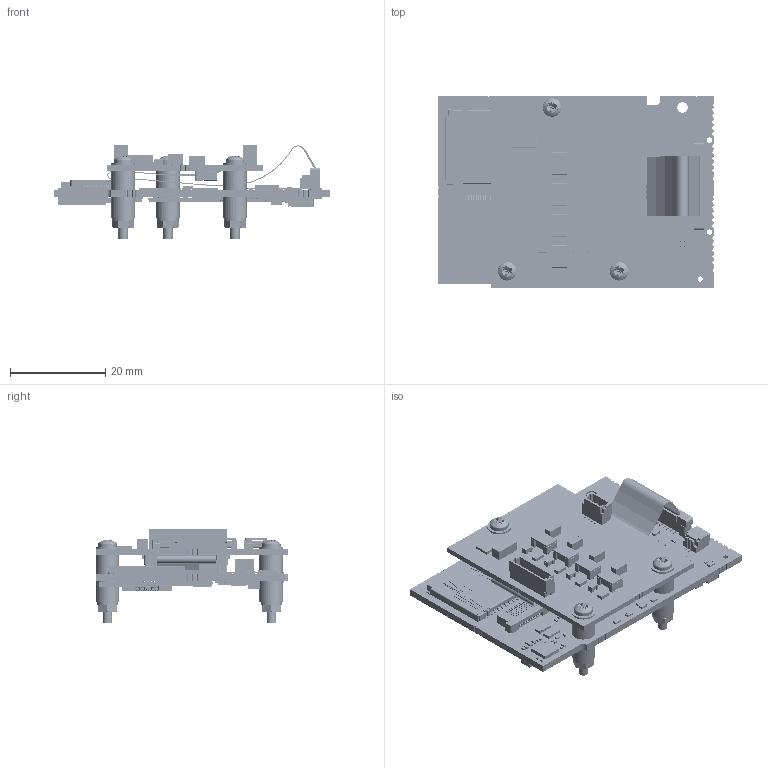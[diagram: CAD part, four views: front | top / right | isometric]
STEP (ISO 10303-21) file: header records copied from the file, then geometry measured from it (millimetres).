
FILE_DESCRIPTION( ( 'Unknown' ), '1' );
FILE_NAME( 'Q:/2003/Product3DCADModels/STEP-test/mm-ap29c01-0172-0101.stp', 'Unknown', ( 'Unknown' ), ( 'Unknown' ), 'PSStep 17.0.49', 'Unknown', ' ' );
FILE_SCHEMA( ( 'AUTOMOTIVE_DESIGN { 1 0 10303 214 1 1 1 1 }' ) );
Length unit declared in the file: millimetre
Products named in the file (556): Lead-3; Open_CASCADE_STEP_translator_6.8_1.2.1; Lead-1; Lead-4; Lead-7; Lead-6; Lead-2; Lead-5; Lead; Body; Open_CASCADE_STEP_translator_6.8_17.2.1; DEFAULT; DEFAULT-1; DEFAULT-2; 5993357248; body; Terminal; Open_CASCADE_STEP_translator_6.8_3.1.1; Open_CASCADE_STEP_translator_6.8_3.1.2; Pin_Shape; Open_CASCADE_STEP_translator_6.8_17.4.1; FRAME_RUG0010A; Open CASCADE STEP translator 6.8 16.15.1.1.1; Open CASCADE STEP translator 6.8 16.15.1.1.2; Open CASCADE STEP translator 6.8 16.15.1.1.3; Open CASCADE STEP translator 6.8 16.15.1.1.4; Open CASCADE STEP translator 6.8 16.15.1.1.5; Open CASCADE STEP translator 6.8 16.15.1.1.6; Open CASCADE STEP translator 6.8 16.15.1.1.7; Open CASCADE STEP translator 6.8 16.15.1.1.8; Open CASCADE STEP translator 6.8 16.15.1.1.9; Open CASCADE STEP translator 6.8 16.15.1.1.10; Mid_Body; Open_CASCADE_STEP_translator_6.8_3.2.1; DRC_(S-PVSON-N10); User_Library-DRC_(S-PVSON-N10)-1_DRC_Koerper; User_Library-DRC_(S-PVSON-N10)-1_DRC_PINS; Open CASCADE STEP translator 6.8 16.1.1; Open CASCADE STEP translator 6.8 16.1.1.1; 6811100368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
Assembly tree (1410 placements, depth 7):
  Assem1
    G-875-322T  x6
    flexi-01
    G-977-016Z  x6
    G-359-535Q  x3
    G-915-068V  x3
    G-161-906B  x3
    mm-ap29c01-0111-0301
      Board
        Open CASCADE STEP translator 6.8 16.1.1
          Open CASCADE STEP translator 6.8 16.1.1.1
      U9
        6292125808
          Thermal_Shape
          Open_CASCADE_STEP_translator_6.8_17.1
          Body
            Open_CASCADE_STEP_translator_6.8_17.2.1
          Pin_Shape  x24
            Open_CASCADE_STEP_translator_6.8_17.4.1
      R20
        6519727536
          Extruded
      L20
        CR1005-0402
        CR1005-0402
        CR1005-0402
        CR1005-0402
      C201
        6519727536
          Extruded
      C200
        6519727536
          Extruded
      C168
        CR1005-0402
        CR1005-0402
        CR1005-0402
        CR1005-0402
      U6
        6811100368
          Extruded
      R109
        6519727536
          Extruded
      R108
        6250716752
          Extruded
      C136
        6519727536
          Extruded
      R107
        6250716752
          Extruded
      R106
        6250716752
          Extruded
      R105
        6250716752
          Extruded
      U15
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Bounding box: 58.1 x 40.5 x 19.92 mm (x, y, z)
Volume: 7763.4 mm3; surface area: 19653.4 mm2
Topology: 1028 solids, 1029 shells, 15753 faces, 40214 edges, 26378 vertices
Faces by surface type: plane 13623, cylinder 1844, sphere 100, revolution 56, bspline 55, torus 52, cone 23
Full cylindrical faces by diameter (mm): 0.041 x1, 0.15 x1, 0.2 x2, 0.25 x1, 0.5 x1, 0.519 x1, 1 x1, 1.1 x1, 1.12 x2, 1.567 x3, 2 x5, 2.2 x19, 3.9 x3, 4.5 x3, 5 x12
Entity records: 291409 total; most frequent: CARTESIAN_POINT 40552, DIRECTION 38331, ORIENTED_EDGE 37379, EDGE_CURVE 18690, LINE 15655, VECTOR 15655, VERTEX_POINT 12331, AXIS2_PLACEMENT_3D 11331
